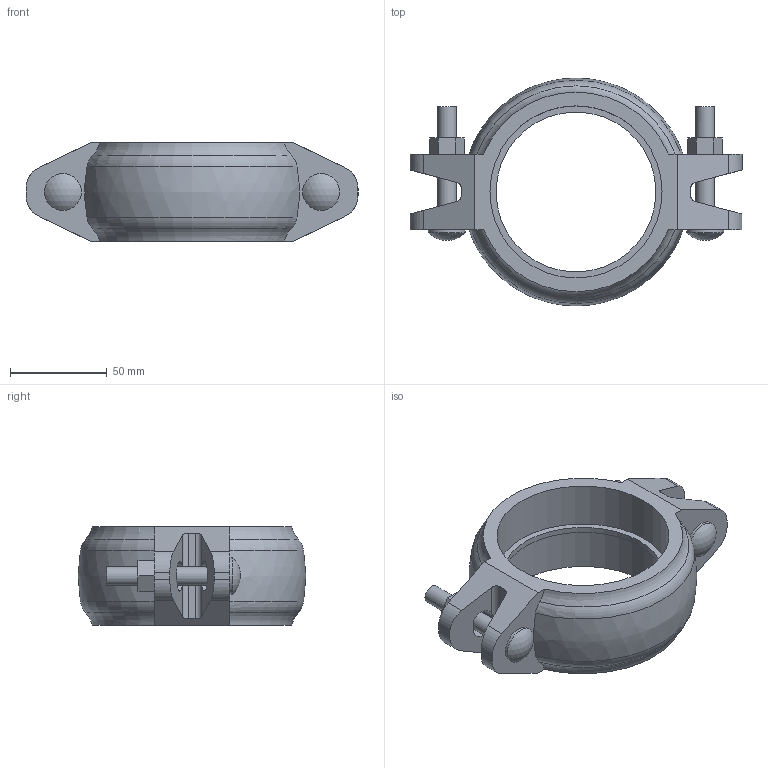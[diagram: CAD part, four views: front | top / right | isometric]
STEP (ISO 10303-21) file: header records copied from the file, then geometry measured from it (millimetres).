
FILE_DESCRIPTION(/* description */ ('VICTAULIC STYLE 009N FIRELOCK EZ RIGID COUPLING','CAx-IF Rec.Pracs.---Representation and Presentation of Product Manufacturing Information (PMI)---4.0---2014-10-13'),/* implementation_level */ '2;1');
FILE_NAME(/* name */ 'C:\Users\Vjadhav\AppData\Roaming\Autodesk\ApplicationPlugins\Victaulic.Temp\A361\Victaulic_FP-FireLock_Coupling Rigid_IR_Style 009N (OGS)_3 (80).stp',/* time_stamp */ '2022-03-23T18:54:47+05:00',/* author */ ('Vjadhav'),/* organization */ ('Victaulic'),/* preprocessor_version */ 'ST-DEVELOPER v17.2',/* originating_system */ 'Autodesk Inventor 2019',/* authorisation */ '');
FILE_SCHEMA (('AP242_MANAGED_MODEL_BASED_3D_ENGINEERING_MIM_LF { 1 0 10303 442 1 1 4 }'));
Length unit declared in the file: inch
Products named in the file (2): 009N-03.0; 009N-03.0_1
Assembly tree (1 placements, depth 2):
  009N-03.0
    009N-03.0_1
Bounding box: 171.45 x 117.6 x 50.8 mm (x, y, z)
Volume: 258111.8 mm3; surface area: 54741 mm2
Topology: 1 solids, 1 shells, 91 faces, 263 edges, 178 vertices
Faces by surface type: plane 50, cylinder 29, torus 8, sphere 2, bspline 2
Full cylindrical faces by diameter (mm): 9.525 x4, 19.05 x2, 82.55 x1, 88.9 x2
Entity records: 3407 total; most frequent: CARTESIAN_POINT 783, ORIENTED_EDGE 526, DIRECTION 505, EDGE_CURVE 263, VERTEX_POINT 178, AXIS2_PLACEMENT_3D 178, LINE 149, VECTOR 149
